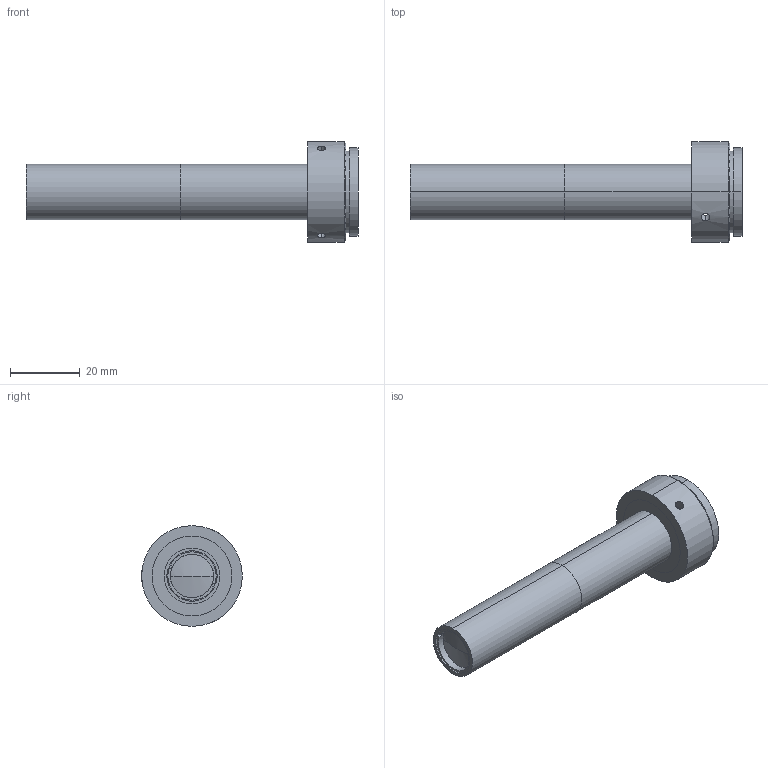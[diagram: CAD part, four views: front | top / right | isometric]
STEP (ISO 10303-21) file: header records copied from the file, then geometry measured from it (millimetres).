
FILE_DESCRIPTION (( 'STEP AP203' ), '1' );
FILE_NAME ('XF-T1X65-Y11-蚾饜极-20140413V5.STEP', '2016-02-22T02:07:48', ( 'cherishsunshine' ), ( '' ), 'SwSTEP 2.0', 'SolidWorks 2014', '' );
FILE_SCHEMA (( 'CONFIG_CONTROL_DESIGN' ));
Length unit declared in the file: millimetre
Products named in the file (1): XF-T1X65-Y11-蚾饜极-20140413V5
Bounding box: 95.55 x 29 x 29 mm (x, y, z)
Surface area: 8846.1 mm2 (no closed solid volume)
Topology: 0 solids, 6 shells, 49 faces, 122 edges, 83 vertices
Faces by surface type: cylinder 28, plane 17, sphere 2, cone 2
Entity records: 1772 total; most frequent: CARTESIAN_POINT 483, DIRECTION 274, ORIENTED_EDGE 216, EDGE_CURVE 122, AXIS2_PLACEMENT_3D 114, VERTEX_POINT 83, CIRCLE 64, EDGE_LOOP 64
